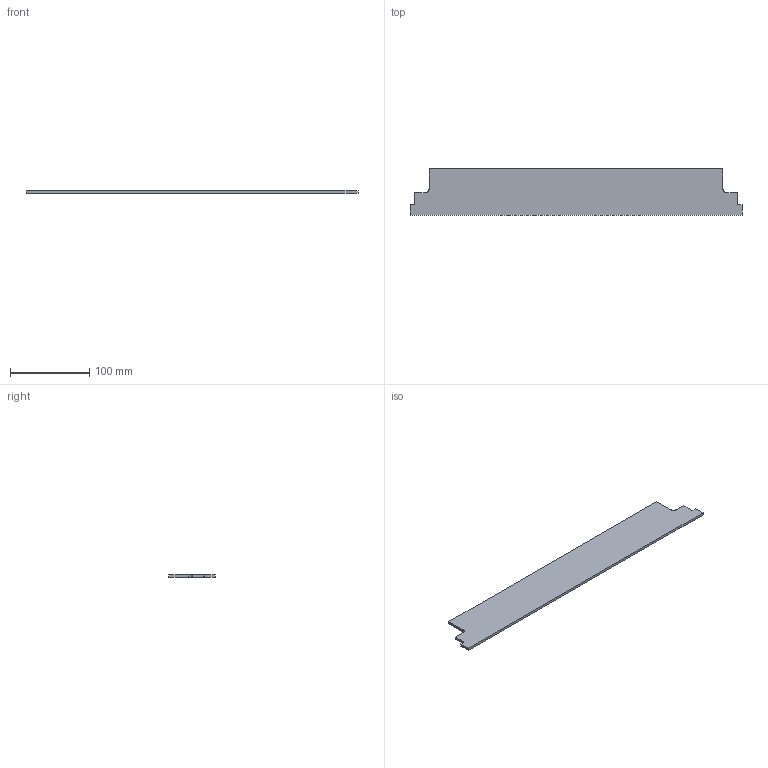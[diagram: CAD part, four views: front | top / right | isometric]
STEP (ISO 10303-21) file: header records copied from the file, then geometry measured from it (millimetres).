
FILE_DESCRIPTION (( 'STEP AP203' ), '1' );
FILE_NAME ('婕昈.741228.016_3D.STEP', '2024-02-06T10:17:33', ( '' ), ( '' ), 'SwSTEP 2.0', 'SolidWorks 2022', '' );
FILE_SCHEMA (( 'CONFIG_CONTROL_DESIGN' ));
Length unit declared in the file: millimetre
Products named in the file (1): 婕昈.741228.016_3D
Bounding box: 418 x 58.5 x 3.2 mm (x, y, z)
Volume: 73101.3 mm3; surface area: 48721.4 mm2
Topology: 1 solids, 1 shells, 18 faces, 48 edges, 32 vertices
Faces by surface type: plane 14, cylinder 4
Entity records: 637 total; most frequent: CARTESIAN_POINT 99, ORIENTED_EDGE 96, DIRECTION 94, EDGE_CURVE 48, VECTOR 40, LINE 40, VERTEX_POINT 32, AXIS2_PLACEMENT_3D 27
